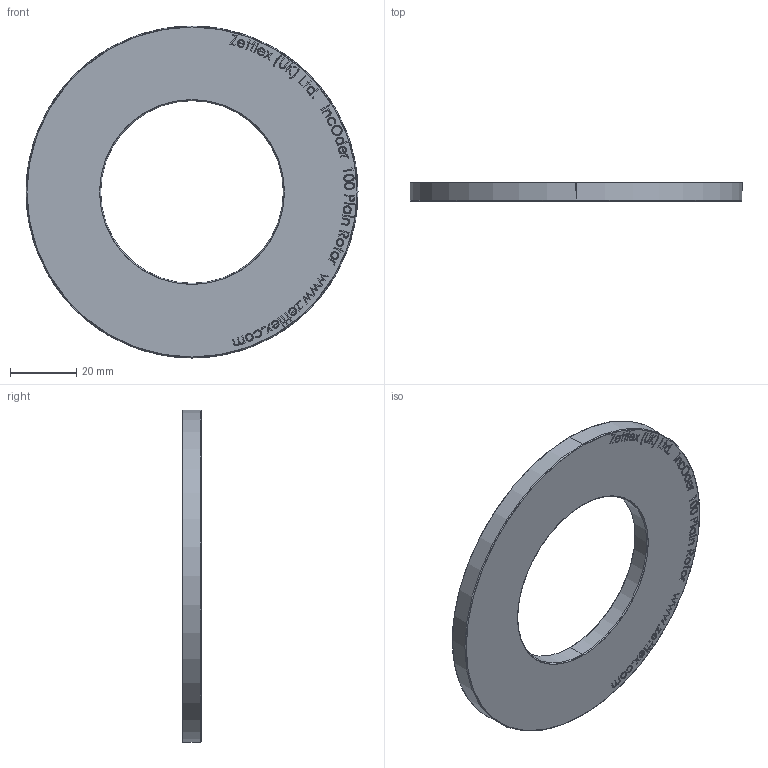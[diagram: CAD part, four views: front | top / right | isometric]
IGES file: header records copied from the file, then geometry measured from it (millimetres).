
Start section: SolidWorks IGES file using analytic representation for surfaces
Global section: file name: C:\Zettlex Data\Mechanical Drawings\1011\100 Plain Rotor Rev 1-4.IGS; native system: SolidWorks 2015; preprocessor: SolidWorks 2015; author: Nigel; date: 150902.105022; units: millimetre
Bounding box: 100 x 5.6 x 100 mm (x, y, z)
Surface area: 13708.2 mm2 (no closed solid volume)
Topology: 0 solids, 0 shells, 600 faces, 7019 edges, 7019 vertices
Faces by surface type: bspline 590, revolution 10
